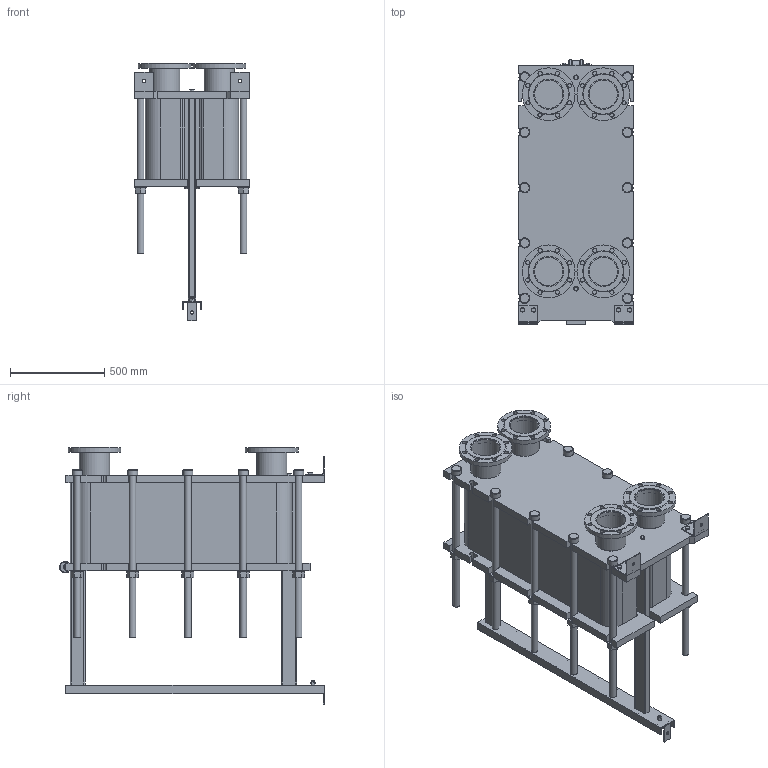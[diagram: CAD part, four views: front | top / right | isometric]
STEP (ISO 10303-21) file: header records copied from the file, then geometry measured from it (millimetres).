
FILE_DESCRIPTION(/* description */ (''),/* implementation_level */ '2;1');
FILE_NAME(/* name */ 'C:\Users\zhuro\Desktop\ENCO\TO\ЭН-041\ЭН-0,5-041-124-1.stp',/* time_stamp */ '2022-06-06T10:59:53+03:00',/* author */ ('zhuro'),/* organization */ (''),/* preprocessor_version */ 'ST-DEVELOPER v18.1',/* originating_system */ 'Autodesk Inventor 2022',/* authorisation */ '');
FILE_SCHEMA (('AUTOMOTIVE_DESIGN { 1 0 10303 214 3 1 1 }'));
Length unit declared in the file: millimetre
Products named in the file (1): ЭН-0,5-041-124-1
Bounding box: 610 x 1406.5 x 1370 mm (x, y, z)
Volume: 322770361.2 mm3; surface area: 9553691.4 mm2
Topology: 52 solids, 52 shells, 711 faces, 1696 edges, 1094 vertices
Faces by surface type: plane 487, cylinder 177, cone 41, torus 6
Full cylindrical faces by diameter (mm): 8 x4, 10 x2, 16 x8, 18 x3, 22 x32, 36 x24, 50 x1, 54 x10, 60 x12, 151 x4, 161 x8, 280 x4
Entity records: 22667 total; most frequent: CARTESIAN_POINT 5230, DIRECTION 3644, ORIENTED_EDGE 3392, EDGE_CURVE 1696, AXIS2_PLACEMENT_3D 1272, LINE 1100, VECTOR 1100, VERTEX_POINT 1094
